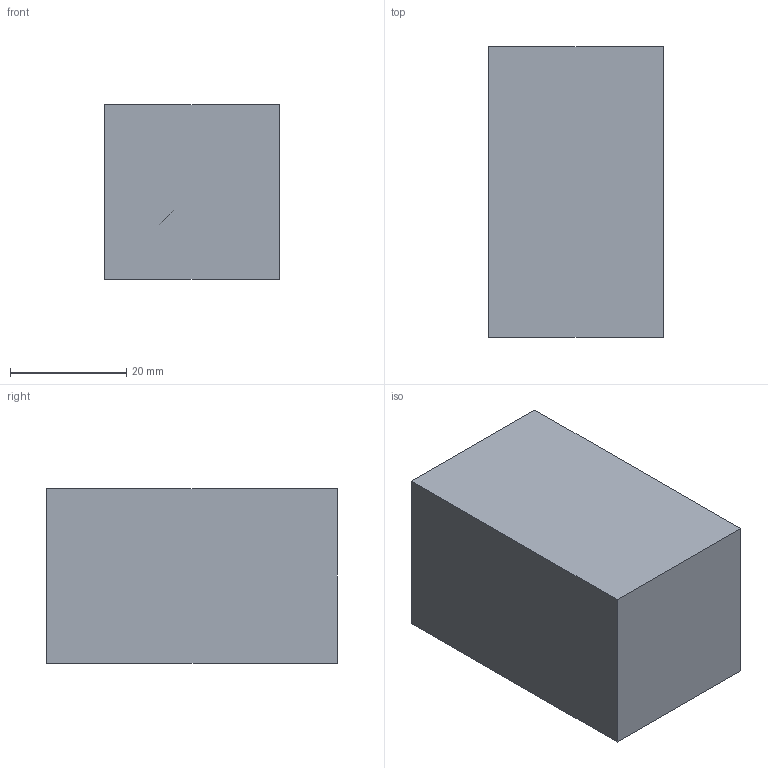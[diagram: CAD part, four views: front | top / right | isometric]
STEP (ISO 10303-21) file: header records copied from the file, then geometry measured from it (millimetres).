
FILE_DESCRIPTION (( 'STEP AP214' ), '1' );
FILE_NAME ('2_13_1068_Senkung_PU06-4.STEP', '2026-07-27T12:33:27', ( '' ), ( '' ), 'SwSTEP 2.0', 'SolidWorks 2024', '' );
FILE_SCHEMA (( 'AUTOMOTIVE_DESIGN' ));
Length unit declared in the file: millimetre
Products named in the file (1): 2_13_1068_Senkung_PU06-4
Bounding box: 30 x 50 x 30 mm (x, y, z)
Volume: 39743.8 mm3; surface area: 9418.6 mm2
Topology: 1 solids, 1 shells, 35 faces, 74 edges, 41 vertices
Faces by surface type: cone 14, cylinder 12, plane 7, torus 2
Entity records: 935 total; most frequent: DIRECTION 178, CARTESIAN_POINT 149, ORIENTED_EDGE 144, EDGE_CURVE 72, AXIS2_PLACEMENT_3D 70, VERTEX_POINT 41, VECTOR 38, LINE 38
